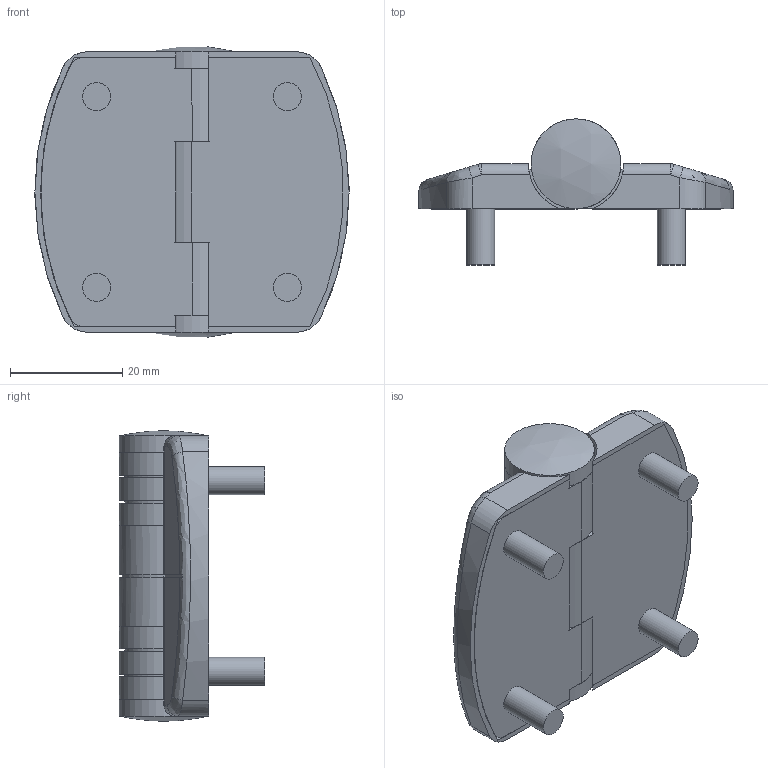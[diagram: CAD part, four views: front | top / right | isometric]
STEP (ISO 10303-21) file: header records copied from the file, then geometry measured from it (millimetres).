
FILE_DESCRIPTION(/* description */ (''),/* implementation_level */ '2;1');
FILE_NAME(/* name */ '\\NAS\db20\H-CV-045\DR_H-CV045.stp',/* time_stamp */ '2017-08-24T08:26:06+09:00',/* author */ ('user'),/* organization */ (''),/* preprocessor_version */ 'ST-DEVELOPER v15.6',/* originating_system */ 'Autodesk Inventor 2015',/* authorisation */ '');
FILE_SCHEMA (('AUTOMOTIVE_DESIGN { 1 0 10303 214 3 1 1 }'));
Length unit declared in the file: millimetre
Products named in the file (6): DR_H-CV045-cover; DR_H-CV045-P1; DR_H-CV045-P2; DR_H-CV045-PIN; DR_H-CV045-BOLT; DR_H-CV045
Bounding box: 56 x 26 x 51.78 mm (x, y, z)
Volume: 24789.2 mm3; surface area: 18813.5 mm2
Topology: 9 solids, 9 shells, 260 faces, 639 edges, 404 vertices
Faces by surface type: plane 142, cylinder 75, bspline 33, sphere 10
Full cylindrical faces by diameter (mm): 5 x12, 8 x4, 16 x2
Entity records: 6239 total; most frequent: CARTESIAN_POINT 1910, DIRECTION 863, ORIENTED_EDGE 862, EDGE_CURVE 431, AXIS2_PLACEMENT_3D 309, VERTEX_POINT 284, LINE 245, VECTOR 245
